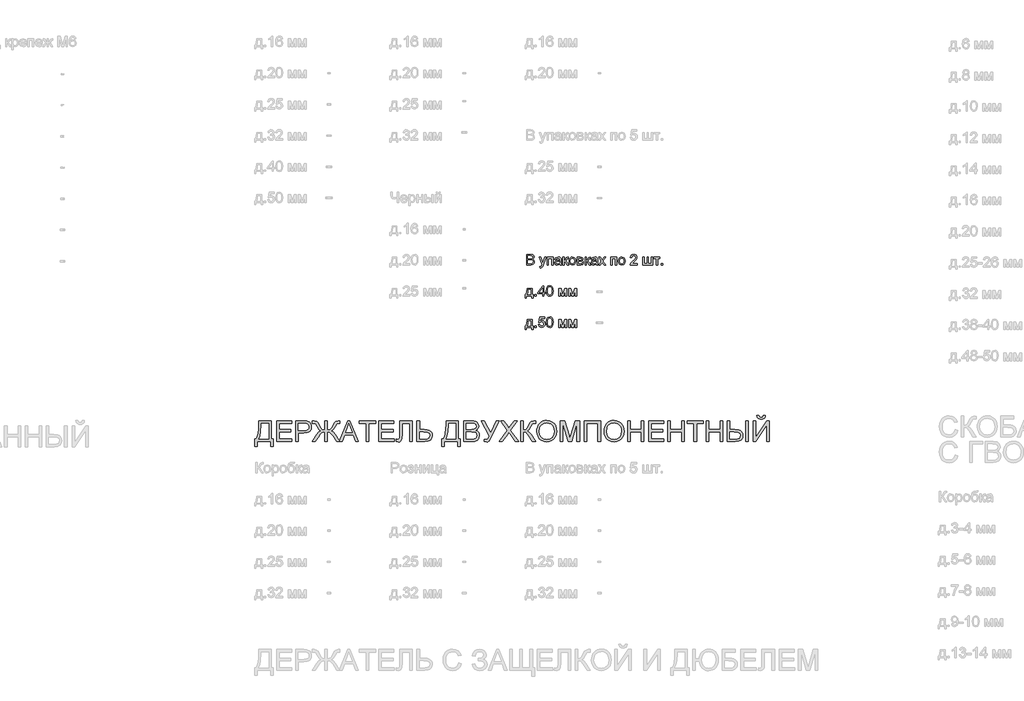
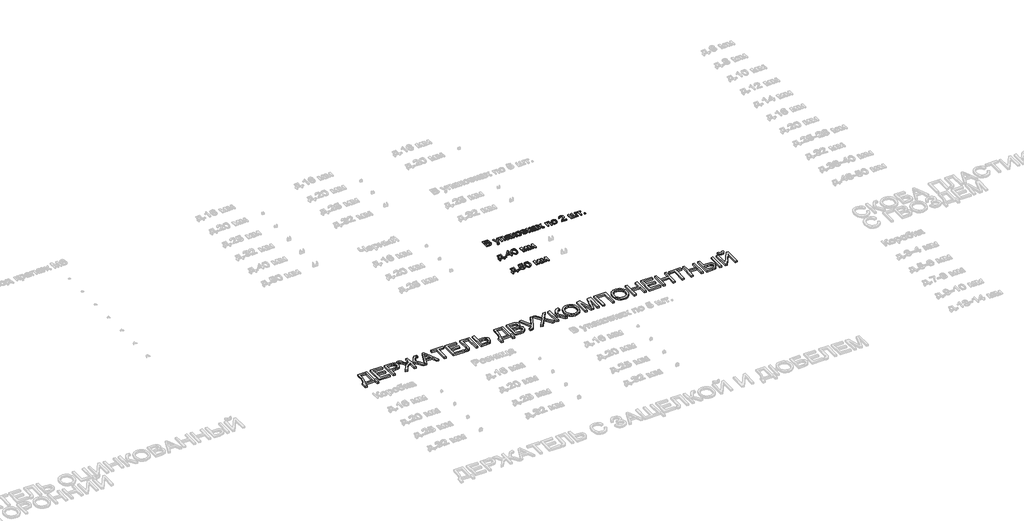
# One storey, part 46 of 98: 4 proxies.
"""IFC4 building model written with IfcOpenShell, lengths in millimetres."""

import ifcopenshell
import ifcopenshell.guid

model = None  # the IFC model being written
_history = None  # IfcOwnerHistory: only IFC2X3 demands one
_inside = {}  # id of a spatial element -> (the spatial element, [elements in it])
_under = {}  # id of a project, library or spatial element -> (it, [spatial elements below it])
_declared = {}  # id of a project -> (the project, [libraries it declares])
_typed = {}  # id of a type object -> (the type object, [elements of that type])
_made_of = {}  # id of a material, layer set ... -> (it, [elements and type objects made of it])


def new_model(schema):
    """Start an empty IFC model of exactly this schema.

    Asked for "IFC4X3", IfcOpenShell would pick the latest addendum, in which some entities
    have other attributes; the version numbers below select the first issue.
    IFC2X3 requires an IfcOwnerHistory on every rooted entity: one is made here for all.
    """
    global model, _history
    if schema == "IFC4X3":
        model = ifcopenshell.file(schema_version=(4, 3, 0, 0))
    else:
        model = ifcopenshell.file(schema=schema)
    _inside.clear()
    _under.clear()
    _declared.clear()
    _typed.clear()
    _made_of.clear()
    _history = None
    if model.schema == "IFC2X3":
        org = make("IfcOrganization", Name="unknown")
        user = make(
            "IfcPersonAndOrganization",
            ThePerson=make("IfcPerson", FamilyName="unknown"),
            TheOrganization=org,
        )
        app = make(
            "IfcApplication",
            ApplicationDeveloper=org,
            Version="unknown",
            ApplicationFullName="unknown",
            ApplicationIdentifier="unknown",
        )
        _history = make(
            "IfcOwnerHistory",
            OwningUser=user,
            OwningApplication=app,
            ChangeAction="ADDED",
            CreationDate=0,
        )
    return model


def make(cls, **values):
    """One entity of the class cls with the attributes given. An attribute that is None is left unset."""
    return model.create_entity(
        cls, **{name: value for name, value in values.items() if value is not None}
    )


def rooted(cls, **values):
    """An entity with a GlobalId (a new one), such as an element, a storey or a relation."""
    return make(cls, GlobalId=ifcopenshell.guid.new(), OwnerHistory=_history, **values)


def si_unit(unit_type, name, prefix=None):
    """IfcSIUnit, for example si_unit("LENGTHUNIT", "METRE", prefix="MILLI")."""
    return make("IfcSIUnit", UnitType=unit_type, Prefix=prefix, Name=name)


def assignment(units):
    """IfcUnitAssignment: the units of a project."""
    return None if units is None else make("IfcUnitAssignment", Units=units)


def point(xyz):
    """IfcCartesianPoint."""
    return None if xyz is None else make("IfcCartesianPoint", Coordinates=xyz)


def direction(xyz):
    """IfcDirection."""
    return None if xyz is None else make("IfcDirection", DirectionRatios=xyz)


def frame(location, z_axis=None, x_axis=None):
    """IfcAxis2Placement3D, a coordinate frame: its origin and axes. An axis left out is left unset."""
    return make(
        "IfcAxis2Placement3D",
        Location=point(location),
        Axis=direction(z_axis),
        RefDirection=direction(x_axis),
    )


def origin():
    """The frame at (0, 0, 0) with its axes left unset."""
    return frame((0.0, 0.0, 0.0))


def origin_with_axes():
    """The frame at (0, 0, 0) with the z axis (0, 0, 1) and the x axis (1, 0, 0) written out."""
    return frame((0.0, 0.0, 0.0), z_axis=(0.0, 0.0, 1.0), x_axis=(1.0, 0.0, 0.0))


def place(relative_to, where):
    """IfcLocalPlacement: puts the frame where relative to a parent placement (None: the world)."""
    return make(
        "IfcLocalPlacement", PlacementRelTo=relative_to, RelativePlacement=where
    )


def context(
    kind, dimensions, precision=None, world=None, true_north=None, identifier=None
):
    """IfcGeometricRepresentationContext, for example the 3D "Model" context."""
    return make(
        "IfcGeometricRepresentationContext",
        ContextIdentifier=identifier,
        ContextType=kind,
        CoordinateSpaceDimension=dimensions,
        Precision=precision,
        WorldCoordinateSystem=world,
        TrueNorth=true_north,
    )


def project(units=None, contexts=None):
    """IfcProject with its units and contexts."""
    return rooted(
        "IfcProject",
        Name="project",
        RepresentationContexts=contexts,
        UnitsInContext=assignment(units),
    )


def spatial(cls, under=None, at=None, **own):
    """A site, building, storey or space (cls), placed at a placement, below another one or the project."""
    s = rooted(cls, ObjectPlacement=at, **own)
    if under is not None:
        _under.setdefault(under.id(), (under, []))[1].append(s)
    return s


def polyline(points):
    """IfcPolyline through the points."""
    return make("IfcPolyline", Points=[point(p) for p in points])


def outline(outer, holes=None, kind="AREA"):
    """IfcArbitraryClosedProfileDef: a profile drawn as a closed curve; with holes, ...WithVoids."""
    if holes is None:
        return make("IfcArbitraryClosedProfileDef", ProfileType=kind, OuterCurve=outer)
    return make(
        "IfcArbitraryProfileDefWithVoids",
        ProfileType=kind,
        OuterCurve=outer,
        InnerCurves=holes,
    )


def extrude(swept, where, along, depth):
    """IfcExtrudedAreaSolid: the profile swept, set in the frame where, extruded along a direction by depth."""
    return make(
        "IfcExtrudedAreaSolid",
        SweptArea=swept,
        Position=where,
        ExtrudedDirection=direction(along),
        Depth=depth,
    )


def shape(context_of_items, identifier, shape_type, items):
    """IfcShapeRepresentation: the items that make up one representation, for example the "Body"."""
    return make(
        "IfcShapeRepresentation",
        ContextOfItems=context_of_items,
        RepresentationIdentifier=identifier,
        RepresentationType=shape_type,
        Items=items,
    )


def made_of(thing, what):
    """Note that an element or type object is made of a material, layer set ...; save() writes the relation."""
    if what is not None:
        _made_of.setdefault(what.id(), (what, []))[1].append(thing)
    return thing


def element(
    cls,
    number,
    at=None,
    inside=None,
    cuts=None,
    type_object=None,
    material=None,
    context=None,
    identifier="Body",
    shape_type=None,
    held_by="IfcProductDefinitionShape",
    body=None,
    shapes=None,
    **own,
):
    """One element of the class cls, such as IfcWall. Its Tag is "e" and its number.

    at: its placement. inside: the storey or other place that contains it. cuts: it is an
    opening in that element (IfcRelVoidsElement). A single representation is given by context,
    identifier, shape_type and body (its items); several are given by shapes. held_by: the class
    of the entity that holds the representations. save() writes the other relations.
    """
    e = rooted(cls, Tag="e%d" % number, ObjectPlacement=at, **own)
    if body is not None:
        shapes = [shape(context, identifier, shape_type, body)]
    if shapes is not None:
        e.Representation = make(held_by, Representations=shapes)
    if inside is not None:
        _inside.setdefault(inside.id(), (inside, []))[1].append(e)
    if cuts is not None:
        rooted(
            "IfcRelVoidsElement", RelatingBuildingElement=cuts, RelatedOpeningElement=e
        )
    if type_object is not None:
        _typed.setdefault(type_object.id(), (type_object, []))[1].append(e)
    return made_of(e, material)


def aggregate(whole, parts):
    """IfcRelAggregates: a whole, such as a stair, and the parts it consists of."""
    return rooted("IfcRelAggregates", RelatingObject=whole, RelatedObjects=parts)


def save(model, path):
    """Write the relations noted so far, then the file.

    IfcRelAggregates (storeys below a building ...), IfcRelContainedInSpatialStructure (elements
    in a storey), IfcRelDefinesByType, IfcRelAssociatesMaterial and IfcRelDeclares: one each for
    every whole, place, type object, material and project.
    """
    for whole, parts in _under.values():
        aggregate(whole, parts)
    for where, things in _inside.values():
        rooted(
            "IfcRelContainedInSpatialStructure",
            RelatedElements=things,
            RelatingStructure=where,
        )
    for kind, things in _typed.values():
        rooted("IfcRelDefinesByType", RelatedObjects=things, RelatingType=kind)
    for what, things in _made_of.values():
        rooted("IfcRelAssociatesMaterial", RelatedObjects=things, RelatingMaterial=what)
    for by, libraries in _declared.values():
        rooted("IfcRelDeclares", RelatingContext=by, RelatedDefinitions=libraries)
    model.write(path)


model = new_model("IFC4")

# Units and contexts
model_context = context("Model", 3, world=origin())
ifc_project = project(units=[si_unit("LENGTHUNIT", "METRE", prefix="MILLI")], contexts=[model_context])

# Site, building, storey
site = spatial("IfcSite", under=ifc_project)
building = spatial("IfcBuilding", under=site)
storey = spatial("IfcBuildingStorey", under=building, Name="Этаж 01", Elevation=0.0)

# Proxies
placement = place(None, origin())
element("IfcBuildingElementProxy", 1, Name="100", ObjectType="100", at=placement, inside=storey, context=model_context, shape_type="SweptSolid", body=[
    extrude(outline(polyline([(8368.1714909, -34359.5121665), (8368.1714909, -34259.0558563), (8406.5047948, -34259.0558563), (8425.2790392, -34262.011175), (8436.36455, -34271.0978603), (8440.3744638, -34283.9492046), (8437.0022122, -34295.6846403), (8426.8118809, -34304.5751218), (8439.1849787, -34313.94385), (8443.5137235, -34329.5665721), (8440.5584048, -34343.0678413), (8433.2375531, -34352.6818241), (8422.3114578, -34357.7831211), (8406.2104892, -34359.5121665), (8368.1714909, -34359.5121665)]), holes=[polyline([(8380.7285296, -34299.8662323), (8403.6598407, -34299.8662323), (8417.0507453, -34298.7871118), (8425.107361, -34294.1395359), (8427.817425, -34285.9602929), (8425.291302, -34277.7687871), (8418.0562894, -34272.9250075), (8401.9185325, -34271.6128951), (8380.7285296, -34271.6128951), (8380.7285296, -34299.8662323)]), polyline([(8380.7285296, -34346.9551277), (8406.4802693, -34346.9551277), (8415.7999465, -34346.4646184), (8423.6848839, -34343.7300289), (8428.9088083, -34338.1504853), (8430.9566847, -34329.6891994), (8428.553189, -34319.9280638), (8420.7663534, -34314.1032655), (8405.253996, -34312.4232711), (8380.7285296, -34312.4232711), (8380.7285296, -34346.9551277)])]), origin_with_axes(), (0.0, 0.0, 1.0), 10.0),
    extrude(outline(polyline([(8498.4507681, -34387.7655037), (8496.8811382, -34375.6744488), (8503.2577595, -34376.7780948), (8509.2174478, -34375.3924059), (8512.8717423, -34371.529645), (8516.3053076, -34362.2835442), (8517.2863262, -34359.2423863), (8490.6026189, -34285.7395637), (8503.8463707, -34285.7395637), (8517.9975648, -34326.6970925), (8522.9271835, -34343.080104), (8527.8568022, -34328.6100789), (8542.4004038, -34285.7395637), (8555.5460537, -34285.7395637), (8529.8678905, -34361.278), (8523.1969636, -34377.6610116), (8515.9129001, -34386.5147049), (8506.127239, -34389.3351335), (8498.4507681, -34387.7655037)])), origin_with_axes(), (0.0, 0.0, 1.0), 10.0),
    extrude(outline(polyline([(8565.9448515, -34285.7395637), (8622.4515259, -34285.7395637), (8622.4515259, -34359.5121665), (8609.8944872, -34359.5121665), (8609.8944872, -34298.2966025), (8578.5018902, -34298.2966025), (8578.5018902, -34359.5121665), (8565.9448515, -34359.5121665), (8565.9448515, -34285.7395637)])), origin_with_axes(), (0.0, 0.0, 1.0), 10.0),
    extrude(outline(polyline([(8688.3759795, -34350.0943874), (8676.1990854, -34358.6047242), (8662.7468671, -34361.0817963), (8652.2530332, -34359.5918742), (8644.5121829, -34355.122108), (8639.738914, -34348.3346852), (8638.1478244, -34339.8917934), (8640.5513201, -34329.9589795), (8646.8666277, -34322.7484924), (8655.6590074, -34318.6282141), (8666.5237889, -34316.7397532), (8688.3024031, -34312.4232711), (8688.3759795, -34309.6273679), (8684.9178887, -34300.3567416), (8671.0364748, -34296.7269726), (8658.3322832, -34299.1427311), (8652.274493, -34307.7143815), (8639.7174542, -34306.1447517), (8645.149845, -34293.8820185), (8656.088203, -34286.6960569), (8672.6551555, -34284.1699338), (8687.8732074, -34286.4017513), (8696.4693834, -34292.0058203), (8700.3198816, -34300.5284199), (8700.9330182, -34311.5158288), (8700.9330182, -34327.1385509), (8701.5706804, -34348.9539532), (8704.0722779, -34359.5121665), (8691.5152392, -34359.5121665), (8688.3759795, -34350.0943874)]), holes=[polyline([(8688.3759795, -34324.9803098), (8668.1179443, -34328.8308081), (8657.3144763, -34330.8664218), (8652.4216458, -34334.1773597), (8650.7048632, -34339.0088766), (8654.4449968, -34345.8024308), (8665.420143, -34348.5247575), (8678.1243345, -34345.5203879), (8686.3158403, -34338.2485871), (8688.3024031, -34328.5365025), (8688.3759795, -34324.9803098)])]), origin_with_axes(), (0.0, 0.0, 1.0), 10.0),
    extrude(outline(polyline([(8718.1989465, -34285.7395637), (8730.7559853, -34285.7395637), (8730.7559853, -34317.1321606), (8739.1682203, -34314.8758177), (8746.0598763, -34301.7301677), (8751.7865727, -34290.3871396), (8756.8388188, -34286.6960569), (8766.0236059, -34285.7395637), (8768.4271016, -34285.7395637), (8768.4271016, -34298.3701789), (8765.0425873, -34298.2966025), (8758.9112207, -34299.6209776), (8754.5947386, -34307.8860598), (8749.5302298, -34316.8255923), (8742.4301073, -34321.203388), (8750.3518329, -34326.0900872), (8758.1264057, -34336.3846517), (8771.5663613, -34359.5121665), (8757.2925399, -34359.5121665), (8744.1223645, -34336.875161), (8737.5004885, -34327.2979664), (8730.7559853, -34324.9803098), (8730.7559853, -34359.5121665), (8718.1989465, -34359.5121665), (8718.1989465, -34285.7395637)])), origin_with_axes(), (0.0, 0.0, 1.0), 10.0),
    extrude(outline(polyline([(8776.2752508, -34322.6258651), (8778.9914462, -34304.8387706), (8787.1400324, -34292.3369141), (8797.2077364, -34286.2116789), (8809.2620031, -34284.1699338), (8822.4536383, -34286.656203), (8832.9903918, -34294.1150104), (8839.8973762, -34305.957745), (8842.1997044, -34321.5957955), (8838.128477, -34343.9384953), (8826.270414, -34356.5813732), (8809.2620031, -34361.0817963), (8795.9109523, -34358.6047242), (8785.3864616, -34351.1735079), (8778.5530535, -34339.082453), (8776.2752508, -34322.6258651)]), holes=[polyline([(8788.8322896, -34322.6013396), (8790.2854235, -34333.9658276), (8794.6448251, -34342.0622972), (8801.2053874, -34346.9091424), (8809.2620031, -34348.5247575), (8817.2818306, -34346.8999454), (8823.8301301, -34342.025509), (8828.1895317, -34333.8217405), (8829.6426656, -34322.2089321), (8828.1803347, -34311.175538), (8823.7933419, -34303.189433), (8817.2358453, -34298.3425877), (8809.2620031, -34296.7269726), (8801.2053874, -34298.3364563), (8794.6448251, -34303.1649075), (8790.2854235, -34311.242983), (8788.8322896, -34322.6013396)])]), origin_with_axes(), (0.0, 0.0, 1.0), 10.0),
    extrude(outline(polyline([(8856.326373, -34285.7395637), (8883.991099, -34285.7395637), (8899.1601, -34287.4195581), (8907.6949623, -34293.5754502), (8911.2634176, -34304.3053417), (8909.1051766, -34313.024145), (8902.605928, -34319.2413507), (8911.0426884, -34326.0471676), (8914.4026773, -34337.8807051), (8912.2750931, -34347.4517684), (8907.2167157, -34354.1901403), (8899.2091509, -34358.1816599), (8888.2340047, -34359.5121665), (8856.326373, -34359.5121665), (8856.326373, -34285.7395637)]), holes=[polyline([(8868.8834118, -34313.9929009), (8881.2932977, -34313.9929009), (8891.5326799, -34313.3552388), (8896.5113496, -34310.8045903), (8898.7063788, -34306.1938026), (8894.8558806, -34300.0379106), (8881.6857052, -34298.2966025), (8868.8834118, -34298.2966025), (8868.8834118, -34313.9929009)]), polyline([(8868.8834118, -34346.9551277), (8884.2854046, -34346.9551277), (8897.9460894, -34344.6865221), (8901.8456385, -34336.8506356), (8899.6996602, -34330.8051081), (8894.1078539, -34327.2857037), (8883.0591313, -34326.5499397), (8868.8834118, -34326.5499397), (8868.8834118, -34346.9551277)])]), origin_with_axes(), (0.0, 0.0, 1.0), 10.0),
    extrude(outline(polyline([(8930.0989758, -34285.7395637), (8942.6560145, -34285.7395637), (8942.6560145, -34317.1321606), (8951.0682495, -34314.8758177), (8957.9599055, -34301.7301677), (8963.6866019, -34290.3871396), (8968.738848, -34286.6960569), (8977.9236351, -34285.7395637), (8980.3271308, -34285.7395637), (8980.3271308, -34298.3701789), (8976.9426165, -34298.2966025), (8970.8112499, -34299.6209776), (8966.4947678, -34307.8860598), (8961.430259, -34316.8255923), (8954.3301365, -34321.203388), (8962.2518621, -34326.0900872), (8970.026435, -34336.3846517), (8983.4663905, -34359.5121665), (8969.1925691, -34359.5121665), (8956.0223937, -34336.875161), (8949.4005178, -34327.2979664), (8942.6560145, -34324.9803098), (8942.6560145, -34359.5121665), (8930.0989758, -34359.5121665), (8930.0989758, -34285.7395637)])), origin_with_axes(), (0.0, 0.0, 1.0), 10.0),
    extrude(outline(polyline([(9038.4034351, -34350.0943874), (9026.2265411, -34358.6047242), (9012.7743228, -34361.0817963), (9002.2804889, -34359.5918742), (8994.5396386, -34355.122108), (8989.7663697, -34348.3346852), (8988.1752801, -34339.8917934), (8990.5787758, -34329.9589795), (8996.8940833, -34322.7484924), (9005.686463, -34318.6282141), (9016.5512446, -34316.7397532), (9038.3298587, -34312.4232711), (9038.4034351, -34309.6273679), (9034.9453444, -34300.3567416), (9021.0639304, -34296.7269726), (9008.3597389, -34299.1427311), (9002.3019487, -34307.7143815), (8989.7449099, -34306.1447517), (8995.1773007, -34293.8820185), (9006.1156587, -34286.6960569), (9022.6826112, -34284.1699338), (9037.9006631, -34286.4017513), (9046.496839, -34292.0058203), (9050.3473372, -34300.5284199), (9050.9604739, -34311.5158288), (9050.9604739, -34327.1385509), (9051.598136, -34348.9539532), (9054.0997336, -34359.5121665), (9041.5426948, -34359.5121665), (9038.4034351, -34350.0943874)]), holes=[polyline([(9038.4034351, -34324.9803098), (9018.1453999, -34328.8308081), (9007.341932, -34330.8664218), (9002.4491015, -34334.1773597), (9000.7323188, -34339.0088766), (9004.4724524, -34345.8024308), (9015.4475986, -34348.5247575), (9028.1517902, -34345.5203879), (9036.343296, -34338.2485871), (9038.3298587, -34328.5365025), (9038.4034351, -34324.9803098)])]), origin_with_axes(), (0.0, 0.0, 1.0), 10.0),
    extrude(outline(polyline([(9060.378253, -34359.5121665), (9087.2091132, -34322.4296613), (9061.9478828, -34285.7395637), (9077.0555701, -34285.7395637), (9089.2447269, -34303.3978995), (9094.9346351, -34311.736558), (9099.8642538, -34304.9184784), (9113.7456677, -34285.7395637), (9128.853355, -34285.7395637), (9102.3168004, -34322.4296613), (9127.8723364, -34359.5121665), (9112.7646491, -34359.5121665), (9097.3871817, -34337.2185176), (9094.5667531, -34333.1472901), (9075.4859403, -34359.5121665), (9060.378253, -34359.5121665)])), origin_with_axes(), (0.0, 0.0, 1.0), 10.0),
    extrude(outline(polyline([(9178.1004914, -34285.7395637), (9234.6071659, -34285.7395637), (9234.6071659, -34359.5121665), (9222.0501271, -34359.5121665), (9222.0501271, -34298.2966025), (9190.6575302, -34298.2966025), (9190.6575302, -34359.5121665), (9178.1004914, -34359.5121665), (9178.1004914, -34285.7395637)])), origin_with_axes(), (0.0, 0.0, 1.0), 10.0),
    extrude(outline(polyline([(9250.3034644, -34322.6258651), (9253.0196598, -34304.8387706), (9261.168246, -34292.3369141), (9271.2359499, -34286.2116789), (9283.2902166, -34284.1699338), (9296.4818518, -34286.656203), (9307.0186053, -34294.1150104), (9313.9255897, -34305.957745), (9316.2279179, -34321.5957955), (9312.1566905, -34343.9384953), (9300.2986275, -34356.5813732), (9283.2902166, -34361.0817963), (9269.9391659, -34358.6047242), (9259.4146751, -34351.1735079), (9252.581267, -34339.082453), (9250.3034644, -34322.6258651)]), holes=[polyline([(9262.8605031, -34322.6013396), (9264.313637, -34333.9658276), (9268.6730387, -34342.0622972), (9275.2336009, -34346.9091424), (9283.2902166, -34348.5247575), (9291.3100441, -34346.8999454), (9297.8583436, -34342.025509), (9302.2177452, -34333.8217405), (9303.6708791, -34322.2089321), (9302.2085482, -34311.175538), (9297.8215554, -34303.189433), (9291.2640588, -34298.3425877), (9283.2902166, -34296.7269726), (9275.2336009, -34298.3364563), (9268.6730387, -34303.1649075), (9264.313637, -34311.242983), (9262.8605031, -34322.6013396)])]), origin_with_axes(), (0.0, 0.0, 1.0), 10.0),
    extrude(outline(polyline([(9430.8108967, -34346.9551277), (9430.8108967, -34359.5121665), (9364.8864431, -34359.5121665), (9366.2353438, -34350.8546768), (9373.8627638, -34337.5250859), (9389.5835877, -34322.9692216), (9411.2641, -34302.0489988), (9416.684228, -34287.8242283), (9411.5706683, -34276.3095219), (9398.2165519, -34271.6128951), (9384.2983497, -34276.1991573), (9379.0131117, -34288.8788234), (9366.456073, -34287.3091935), (9369.5002965, -34275.1629563), (9376.0823185, -34266.2908689), (9385.8587825, -34260.8646095), (9398.486332, -34259.0558563), (9411.205852, -34261.0669445), (9420.9639219, -34267.1002093), (9427.1719306, -34276.1133182), (9429.2412668, -34287.0639389), (9427.0094494, -34298.9710528), (9419.5904958, -34311.2828369), (9401.6010662, -34328.4874515), (9387.1555666, -34340.5662437), (9381.4901838, -34346.9551277), (9430.8108967, -34346.9551277)])), origin_with_axes(), (0.0, 0.0, 1.0), 10.0),
    extrude(outline(polyline([(9485.7479413, -34285.7395637), (9498.30498, -34285.7395637), (9498.30498, -34346.9551277), (9526.5583173, -34346.9551277), (9526.5583173, -34285.7395637), (9539.115356, -34285.7395637), (9539.115356, -34346.9551277), (9567.3686933, -34346.9551277), (9567.3686933, -34285.7395637), (9579.925732, -34285.7395637), (9579.925732, -34359.5121665), (9485.7479413, -34359.5121665), (9485.7479413, -34285.7395637)])), origin_with_axes(), (0.0, 0.0, 1.0), 10.0),
    extrude(outline(polyline([(9590.913141, -34285.7395637), (9650.5590751, -34285.7395637), (9650.5590751, -34298.2966025), (9627.0146274, -34298.2966025), (9627.0146274, -34359.5121665), (9614.4575887, -34359.5121665), (9614.4575887, -34298.2966025), (9590.913141, -34298.2966025), (9590.913141, -34285.7395637)])), origin_with_axes(), (0.0, 0.0, 1.0), 10.0),
    extrude(outline(polyline([(9664.6857437, -34359.5121665), (9664.6857437, -34346.9551277), (9677.2427825, -34346.9551277), (9677.2427825, -34359.5121665), (9664.6857437, -34359.5121665)])), origin_with_axes(), (0.0, 0.0, 1.0), 10.0),
])
element("IfcBuildingElementProxy", 2, Name="100", ObjectType="100", at=placement, inside=storey, context=model_context, shape_type="SweptSolid", body=[
    extrude(outline(polyline([(8374.7606918, -34585.7395637), (8421.8495872, -34585.7395637), (8421.8495872, -34646.9551277), (8431.2673663, -34646.9551277), (8431.2673663, -34679.9173545), (8418.7103275, -34679.9173545), (8418.7103275, -34659.5121665), (8366.9125426, -34659.5121665), (8366.9125426, -34679.9173545), (8354.3555038, -34679.9173545), (8354.3555038, -34646.9551277), (8362.2036531, -34646.9551277), (8371.903475, -34623.0060098), (8374.7606918, -34585.7395637)]), holes=[polyline([(8385.7481007, -34598.2966025), (8382.8050448, -34626.905559), (8376.3303217, -34646.9551277), (8409.2925484, -34646.9551277), (8409.2925484, -34598.2966025), (8385.7481007, -34598.2966025)])]), origin_with_axes(), (0.0, 0.0, 1.0), 10.0),
    extrude(outline(polyline([(8448.5332946, -34659.5121665), (8448.5332946, -34646.9551277), (8461.0903334, -34646.9551277), (8461.0903334, -34659.5121665), (8448.5332946, -34659.5121665)])), origin_with_axes(), (0.0, 0.0, 1.0), 10.0),
    extrude(outline(polyline([(8522.3058974, -34659.5121665), (8522.3058974, -34635.9677188), (8476.7866318, -34635.9677188), (8476.7866318, -34623.41068), (8525.445157, -34560.6254862), (8534.8629361, -34560.6254862), (8534.8629361, -34623.41068), (8547.4199749, -34623.41068), (8547.4199749, -34635.9677188), (8534.8629361, -34635.9677188), (8534.8629361, -34659.5121665), (8522.3058974, -34659.5121665)]), holes=[polyline([(8522.3058974, -34623.41068), (8522.3058974, -34584.6113922), (8492.2376756, -34623.41068), (8522.3058974, -34623.41068)])]), origin_with_axes(), (0.0, 0.0, 1.0), 10.0),
    extrude(outline(polyline([(8558.4073838, -34610.0933518), (8562.0984665, -34581.1900897), (8573.06135, -34564.5250353), (8591.3696106, -34559.0558563), (8606.0358395, -34562.2932179), (8616.1648571, -34571.6251578), (8622.050969, -34586.4875904), (8624.3318374, -34610.0933518), (8620.6775429, -34638.8739865), (8609.7514476, -34655.5758291), (8601.520088, -34659.7053045), (8591.3696106, -34661.0817963), (8578.3220625, -34658.6905633), (8568.4137741, -34651.5168644), (8560.9089814, -34634.5268476), (8558.4073838, -34610.0933518)]), holes=[polyline([(8570.9644226, -34610.0688263), (8572.4359506, -34629.8210238), (8576.8505345, -34641.2529568), (8583.4233595, -34646.7068073), (8591.3696106, -34648.5247575), (8599.3158617, -34646.700676), (8605.8886867, -34641.2284313), (8610.3032706, -34629.7903669), (8611.7747986, -34610.0688263), (8610.3523215, -34590.7611529), (8606.0848904, -34579.2403151), (8599.5243281, -34573.5197501), (8591.2224578, -34571.6128951), (8583.3620458, -34573.2928895), (8577.0467382, -34578.3328729), (8572.4850015, -34590.5710806), (8570.9644226, -34610.0688263)])]), origin_with_axes(), (0.0, 0.0, 1.0), 10.0),
    extrude(outline(polyline([(8677.6992521, -34585.7395637), (8699.306188, -34585.7395637), (8715.9589796, -34644.7968867), (8733.911621, -34585.7395637), (8754.6111146, -34585.7395637), (8754.6111146, -34659.5121665), (8742.0540758, -34659.5121665), (8742.0540758, -34600.111487), (8724.0033326, -34659.5121665), (8707.5222192, -34659.5121665), (8690.2562909, -34597.2665329), (8690.2562909, -34659.5121665), (8677.6992521, -34659.5121665), (8677.6992521, -34585.7395637)])), origin_with_axes(), (0.0, 0.0, 1.0), 10.0),
    extrude(outline(polyline([(8773.4466727, -34585.7395637), (8795.0536086, -34585.7395637), (8811.7064002, -34644.7968867), (8829.6590416, -34585.7395637), (8850.3585352, -34585.7395637), (8850.3585352, -34659.5121665), (8837.8014964, -34659.5121665), (8837.8014964, -34600.111487), (8819.7507532, -34659.5121665), (8803.2696398, -34659.5121665), (8786.0037115, -34597.2665329), (8786.0037115, -34659.5121665), (8773.4466727, -34659.5121665), (8773.4466727, -34585.7395637)])), origin_with_axes(), (0.0, 0.0, 1.0), 10.0),
])
element("IfcBuildingElementProxy", 3, Name="100", ObjectType="100", at=placement, inside=storey, context=model_context, shape_type="SweptSolid", body=[
    extrude(outline(polyline([(8374.7606918, -34885.7395637), (8421.8495872, -34885.7395637), (8421.8495872, -34946.9551277), (8431.2673663, -34946.9551277), (8431.2673663, -34979.9173545), (8418.7103275, -34979.9173545), (8418.7103275, -34959.5121665), (8366.9125426, -34959.5121665), (8366.9125426, -34979.9173545), (8354.3555038, -34979.9173545), (8354.3555038, -34946.9551277), (8362.2036531, -34946.9551277), (8371.903475, -34923.0060098), (8374.7606918, -34885.7395637)]), holes=[polyline([(8385.7481007, -34898.2966025), (8382.8050448, -34926.905559), (8376.3303217, -34946.9551277), (8409.2925484, -34946.9551277), (8409.2925484, -34898.2966025), (8385.7481007, -34898.2966025)])]), origin_with_axes(), (0.0, 0.0, 1.0), 10.0),
    extrude(outline(polyline([(8448.5332946, -34959.5121665), (8448.5332946, -34946.9551277), (8461.0903334, -34946.9551277), (8461.0903334, -34959.5121665), (8448.5332946, -34959.5121665)])), origin_with_axes(), (0.0, 0.0, 1.0), 10.0),
    extrude(outline(polyline([(8481.4955214, -34932.8284591), (8494.0525601, -34931.2588292), (8500.3801304, -34944.1960127), (8513.5012549, -34948.5247575), (8522.5021011, -34947.019507), (8529.2466043, -34942.5037555), (8533.4588532, -34935.4986692), (8534.8629361, -34926.5254142), (8529.6022236, -34911.6139307), (8522.9956761, -34907.5120464), (8513.6974587, -34906.1447517), (8502.6732615, -34908.3275182), (8495.62219, -34913.9929009), (8483.0651512, -34912.4232711), (8494.0525601, -34860.6254862), (8542.7110854, -34860.6254862), (8542.7110854, -34873.1825249), (8504.2061032, -34873.1825249), (8498.8350261, -34900.847251), (8507.8052154, -34895.4025974), (8517.2046004, -34893.5877129), (8528.9369703, -34895.8379245), (8538.6766461, -34902.5885591), (8545.2341427, -34912.8769922), (8547.4199749, -34925.7405993), (8545.4518062, -34938.2976381), (8539.5473002, -34949.0397923), (8528.2410602, -34958.0712953), (8513.452204, -34961.0817963), (8501.1189601, -34959.1473501), (8491.2934452, -34953.3440117), (8484.558139, -34944.3462312), (8481.4955214, -34932.8284591)])), origin_with_axes(), (0.0, 0.0, 1.0), 10.0),
    extrude(outline(polyline([(8558.4073838, -34910.0933518), (8562.0984665, -34881.1900897), (8573.06135, -34864.5250353), (8591.3696106, -34859.0558563), (8606.0358395, -34862.2932179), (8616.1648571, -34871.6251578), (8622.050969, -34886.4875904), (8624.3318374, -34910.0933518), (8620.6775429, -34938.8739865), (8609.7514476, -34955.5758291), (8601.520088, -34959.7053045), (8591.3696106, -34961.0817963), (8578.3220625, -34958.6905633), (8568.4137741, -34951.5168644), (8560.9089814, -34934.5268476), (8558.4073838, -34910.0933518)]), holes=[polyline([(8570.9644226, -34910.0688263), (8572.4359506, -34929.8210238), (8576.8505345, -34941.2529568), (8583.4233595, -34946.7068073), (8591.3696106, -34948.5247575), (8599.3158617, -34946.700676), (8605.8886867, -34941.2284313), (8610.3032706, -34929.7903669), (8611.7747986, -34910.0688263), (8610.3523215, -34890.7611529), (8606.0848904, -34879.2403151), (8599.5243281, -34873.5197501), (8591.2224578, -34871.6128951), (8583.3620458, -34873.2928895), (8577.0467382, -34878.3328729), (8572.4850015, -34890.5710806), (8570.9644226, -34910.0688263)])]), origin_with_axes(), (0.0, 0.0, 1.0), 10.0),
    extrude(outline(polyline([(8677.6992521, -34885.7395637), (8699.306188, -34885.7395637), (8715.9589796, -34944.7968867), (8733.911621, -34885.7395637), (8754.6111146, -34885.7395637), (8754.6111146, -34959.5121665), (8742.0540758, -34959.5121665), (8742.0540758, -34900.111487), (8724.0033326, -34959.5121665), (8707.5222192, -34959.5121665), (8690.2562909, -34897.2665329), (8690.2562909, -34959.5121665), (8677.6992521, -34959.5121665), (8677.6992521, -34885.7395637)])), origin_with_axes(), (0.0, 0.0, 1.0), 10.0),
    extrude(outline(polyline([(8773.4466727, -34885.7395637), (8795.0536086, -34885.7395637), (8811.7064002, -34944.7968867), (8829.6590416, -34885.7395637), (8850.3585352, -34885.7395637), (8850.3585352, -34959.5121665), (8837.8014964, -34959.5121665), (8837.8014964, -34900.111487), (8819.7507532, -34959.5121665), (8803.2696398, -34959.5121665), (8786.0037115, -34897.2665329), (8786.0037115, -34959.5121665), (8773.4466727, -34959.5121665), (8773.4466727, -34885.7395637)])), origin_with_axes(), (0.0, 0.0, 1.0), 10.0),
])
element("IfcBuildingElementProxy", 4, Name="200", ObjectType="200", at=placement, inside=storey, context=model_context, shape_type="SweptSolid", body=[
    extrude(outline(polyline([(5795.1658798, -35858.5995462), (5914.4577481, -35858.5995462), (5914.4577481, -36034.3980889), (5933.2933063, -36034.3980889), (5933.2933063, -36106.6010618), (5908.1792287, -36106.6010618), (5908.1792287, -36059.5121665), (5779.4695814, -36059.5121665), (5779.4695814, -36106.6010618), (5754.3555038, -36106.6010618), (5754.3555038, -36034.3980889), (5770.0518023, -36034.3980889), (5781.0392112, -36011.6169964), (5788.8873604, -35979.5714089), (5793.59625, -35938.2613265), (5795.1658798, -35887.6867492), (5795.1658798, -35858.5995462)]), holes=[polyline([(5889.3436706, -35883.7136237), (5820.2799574, -35883.7136237), (5820.2799574, -35893.8181158), (5815.1786604, -35962.6365744), (5807.6248167, -36002.4046181), (5795.1658798, -36034.3980889), (5889.3436706, -36034.3980889), (5889.3436706, -35883.7136237)])]), origin_with_axes(), (0.0, 0.0, 1.0), 20.0),
    extrude(outline(polyline([(5964.6859032, -36059.5121665), (5964.6859032, -35858.5995462), (6109.091849, -35858.5995462), (6109.091849, -35883.7136237), (5989.7999807, -35883.7136237), (5989.7999807, -35943.3595578), (6102.8133297, -35943.3595578), (6102.8133297, -35968.4736354), (5989.7999807, -35968.4736354), (5989.7999807, -36034.3980889), (6112.2311087, -36034.3980889), (6112.2311087, -36059.5121665), (5964.6859032, -36059.5121665)])), origin_with_axes(), (0.0, 0.0, 1.0), 20.0),
    extrude(outline(polyline([(6149.902225, -36059.5121665), (6149.902225, -35858.5995462), (6224.3615409, -35858.5995462), (6254.3807117, -35860.5125325), (6278.7835507, -35869.9057861), (6287.6556381, -35878.232182), (6294.6024765, -35889.3299555), (6299.0906368, -35902.4204232), (6300.5866903, -35916.7249014), (6296.5461197, -35940.4042392), (6284.4244079, -35960.1349768), (6274.7169218, -35967.9034183), (6261.7567457, -35973.4523051), (6226.0783235, -35977.8914145), (6175.0163026, -35977.8914145), (6175.0163026, -36059.5121665), (6149.902225, -36059.5121665)]), holes=[polyline([(6175.0163026, -35952.7773369), (6227.5498515, -35952.7773369), (6249.8189749, -35950.4719431), (6264.5342547, -35943.5557616), (6272.7380232, -35932.4579881), (6275.4726127, -35917.6078182), (6273.8600633, -35906.3261037), (6269.0224151, -35896.8102227), (6261.5605419, -35889.6487866), (6252.0753178, -35885.4304063), (6226.9612403, -35883.7136237), (6175.0163026, -35883.7136237), (6175.0163026, -35952.7773369)])]), origin_with_axes(), (0.0, 0.0, 1.0), 20.0),
    extrude(outline(polyline([(6454.4104152, -35858.5995462), (6454.4104152, -35946.4988175), (6472.7799895, -35944.8065604), (6484.3314841, -35939.7297888), (6493.3691185, -35927.9820904), (6504.1971119, -35906.2770527), (6518.4218823, -35878.1953938), (6534.33891, -35864.2404034), (6556.9759154, -35858.5995462), (6573.7022835, -35858.8938518), (6573.7022835, -35883.7136237), (6568.208579, -35883.5664709), (6562.5677218, -35883.4193181), (6550.8322861, -35884.9521597), (6542.6039922, -35889.5506847), (6527.398203, -35915.2043225), (6511.3340226, -35943.9236436), (6491.6400731, -35956.6033097), (6511.4934381, -35968.3264826), (6530.7336664, -35992.5085924), (6573.7022835, -36059.5121665), (6544.5169785, -36059.5121665), (6508.0721355, -36002.6621355), (6482.9825835, -35973.7711361), (6470.7505071, -35967.4435658), (6454.4104152, -35965.3343757), (6454.4104152, -36059.5121665), (6429.2963376, -36059.5121665), (6429.2963376, -35965.3343757), (6415.5436824, -35966.9714506), (6403.5200725, -35971.8826752), (6391.4228862, -35982.2017652), (6377.4495018, -36000.062436), (6375.6346173, -36002.6621355), (6339.1897743, -36059.5121665), (6310.0044693, -36059.5121665), (6352.9240354, -35992.5085924), (6372.384993, -35968.2529062), (6392.1157307, -35956.6033097), (6373.4763762, -35945.2480188), (6356.3085498, -35915.2043225), (6340.6613023, -35889.0111244), (6332.5801611, -35885.0379989), (6321.2861839, -35883.7136237), (6310.0044693, -35884.0079293), (6310.0044693, -35858.8938518), (6325.8479206, -35858.5995462), (6349.3923683, -35864.1177761), (6365.0150904, -35877.9501391), (6379.509641, -35906.3261037), (6390.3437657, -35928.2702647), (6399.3016923, -35939.8524162), (6410.8102674, -35944.7145899), (6429.2963376, -35946.4988175), (6429.2963376, -35858.5995462), (6454.4104152, -35858.5995462)])), origin_with_axes(), (0.0, 0.0, 1.0), 20.0),
    extrude(outline(polyline([(6569.1405467, -36059.5121665), (6649.3388217, -35858.5995462), (6670.7250283, -35858.5995462), (6750.9233033, -36059.5121665), (6724.3867487, -36059.5121665), (6701.3818613, -35996.7269726), (6618.6329378, -35996.7269726), (6595.6771013, -36059.5121665), (6569.1405467, -36059.5121665)]), holes=[polyline([(6627.8545132, -35971.6128951), (6692.2093369, -35971.6128951), (6674.1095427, -35922.2186059), (6660.031925, -35883.7136237), (6647.5239372, -35917.9021238), (6627.8545132, -35971.6128951)])]), origin_with_axes(), (0.0, 0.0, 1.0), 20.0),
    extrude(outline(polyline([(6827.9823186, -36059.5121665), (6827.9823186, -35883.7136237), (6762.057865, -35883.7136237), (6762.057865, -35858.5995462), (6919.0208496, -35858.5995462), (6919.0208496, -35883.7136237), (6853.0963961, -35883.7136237), (6853.0963961, -36059.5121665), (6827.9823186, -36059.5121665)])), origin_with_axes(), (0.0, 0.0, 1.0), 20.0),
    extrude(outline(polyline([(6947.2741869, -36059.5121665), (6947.2741869, -35858.5995462), (7091.6801327, -35858.5995462), (7091.6801327, -35883.7136237), (6972.3882644, -35883.7136237), (6972.3882644, -35943.3595578), (7085.4016133, -35943.3595578), (7085.4016133, -35968.4736354), (6972.3882644, -35968.4736354), (6972.3882644, -36034.3980889), (7094.8193924, -36034.3980889), (7094.8193924, -36059.5121665), (6947.2741869, -36059.5121665)])), origin_with_axes(), (0.0, 0.0, 1.0), 20.0),
    extrude(outline(polyline([(7148.1868072, -35858.5995462), (7270.6179351, -35858.5995462), (7270.6179351, -36059.5121665), (7245.5038576, -36059.5121665), (7245.5038576, -35883.7136237), (7173.3008847, -35883.7136237), (7173.3008847, -35986.230073), (7170.3823542, -36031.9700678), (7165.863537, -36044.8949885), (7158.1441465, -36054.5825477), (7147.5736705, -36060.6342065), (7134.5015969, -36062.6514262), (7113.6549505, -36059.5121665), (7116.7942102, -36034.3980889), (7128.8116887, -36037.5373486), (7137.3036315, -36035.8512228), (7143.3552903, -36030.7928454), (7146.9789279, -36019.480474), (7148.1868072, -35999.0323665), (7148.1868072, -35858.5995462)])), origin_with_axes(), (0.0, 0.0, 1.0), 20.0),
    extrude(outline(polyline([(7314.5675708, -35858.5995462), (7339.6816484, -35858.5995462), (7339.6816484, -35943.3595578), (7386.7214928, -35943.3595578), (7415.1035888, -35945.3277265), (7434.4235249, -35951.2322325), (7447.1277164, -35960.5273843), (7455.6625787, -35972.6674901), (7460.500227, -35986.4324081), (7462.1127764, -36000.6019963), (7458.2377527, -36022.6503905), (7446.6126816, -36041.8047798), (7437.1949026, -36049.5517614), (7424.4416601, -36055.0853198), (7388.9287848, -36059.5121665), (7314.5675708, -36059.5121665), (7314.5675708, -35858.5995462)]), holes=[polyline([(7339.6816484, -36034.3980889), (7388.8797339, -36034.3980889), (7413.6259294, -36031.9148855), (7427.9242763, -36024.4652751), (7434.7300932, -36013.508523), (7436.9986988, -36000.5038944), (7435.3554926, -35989.9702066), (7430.4258739, -35981.128776), (7422.7555343, -35974.5498197), (7412.8901654, -35970.8035547), (7375.7340839, -35968.4736354), (7339.6816484, -35968.4736354), (7339.6816484, -36034.3980889)])]), origin_with_axes(), (0.0, 0.0, 1.0), 20.0),
    extrude(outline(polyline([(7593.9616834, -35858.5995462), (7713.2535517, -35858.5995462), (7713.2535517, -36034.3980889), (7732.0891099, -36034.3980889), (7732.0891099, -36106.6010618), (7706.9750324, -36106.6010618), (7706.9750324, -36059.5121665), (7578.265385, -36059.5121665), (7578.265385, -36106.6010618), (7553.1513074, -36106.6010618), (7553.1513074, -36034.3980889), (7568.8476059, -36034.3980889), (7579.8350148, -36011.6169964), (7587.6831641, -35979.5714089), (7592.3920536, -35938.2613265), (7593.9616834, -35887.6867492), (7593.9616834, -35858.5995462)]), holes=[polyline([(7688.1394742, -35883.7136237), (7619.075761, -35883.7136237), (7619.075761, -35893.8181158), (7613.974464, -35962.6365744), (7606.4206203, -36002.4046181), (7593.9616834, -36034.3980889), (7688.1394742, -36034.3980889), (7688.1394742, -35883.7136237)])]), origin_with_axes(), (0.0, 0.0, 1.0), 20.0),
    extrude(outline(polyline([(7763.4817068, -36059.5121665), (7763.4817068, -35858.5995462), (7840.1483146, -35858.5995462), (7861.2340843, -35860.0772055), (7877.6968036, -35864.5101835), (7890.315156, -35872.0088449), (7899.8678252, -35882.6835541), (7905.8826958, -35895.2405929), (7907.8876527, -35908.3862428), (7906.2015268, -35920.4834291), (7901.1431494, -35931.8571141), (7892.6757322, -35941.8083221), (7880.7624869, -35949.6380772), (7894.9933887, -35957.0692935), (7905.5086824, -35968.3755335), (7912.0017996, -35982.8087705), (7914.166172, -35999.6209776), (7908.2555347, -36026.6235161), (7893.6138312, -36045.8514817), (7871.7616407, -36056.0540757), (7839.5597034, -36059.5121665), (7763.4817068, -36059.5121665)]), holes=[polyline([(7788.5957844, -36034.3980889), (7840.0992637, -36034.3980889), (7858.7386181, -36033.4170703), (7874.508493, -36027.9478913), (7884.9563416, -36016.7888041), (7889.0520945, -35999.8662323), (7884.2451031, -35980.3439611), (7877.9481896, -35973.2867582), (7868.671432, -35968.6943646), (7837.646717, -35965.3343757), (7788.5957844, -35965.3343757), (7788.5957844, -36034.3980889)]), polyline([(7788.5957844, -35940.2202982), (7834.4584064, -35940.2202982), (7861.2402157, -35938.0620571), (7877.3534471, -35928.7669054), (7882.7735751, -35912.4084193), (7877.7213291, -35896.0254078), (7863.2513039, -35886.3378486), (7830.9757902, -35883.7136237), (7788.5957844, -35883.7136237), (7788.5957844, -35940.2202982)])]), origin_with_axes(), (0.0, 0.0, 1.0), 20.0),
    extrude(outline(polyline([(7934.57136, -35858.5995462), (7962.3832389, -35858.5995462), (8022.4706314, -35977.5971089), (8076.5247592, -35858.5995462), (8104.0913834, -35858.5995462), (8027.8171831, -36015.1210724), (8007.0686386, -36053.5770036), (7997.2216638, -36060.3828205), (7983.8675474, -36062.6514262), (7961.2550674, -36059.5121665), (7961.2550674, -36037.5373486), (7981.0225933, -36037.5373486), (7995.6888222, -36031.9455423), (8009.2759305, -36006.4881082), (7934.57136, -35858.5995462)])), origin_with_axes(), (0.0, 0.0, 1.0), 20.0),
    extrude(outline(polyline([(8105.6610133, -36059.5121665), (8183.112436, -35950.0304847), (8118.218052, -35858.5995462), (8148.3353247, -35858.5995462), (8184.8782696, -35910.0539746), (8197.1900537, -35930.115806), (8211.6110279, -35909.710618), (8247.7615653, -35858.5995462), (8278.3202963, -35858.5995462), (8213.4259124, -35950.3247903), (8290.8773351, -36059.5121665), (8260.7600624, -36059.5121665), (8209.1584812, -35986.7205823), (8198.416327, -35971.6128951), (8186.5950522, -35988.1921103), (8136.2197443, -36059.5121665), (8105.6610133, -36059.5121665)])), origin_with_axes(), (0.0, 0.0, 1.0), 20.0),
    extrude(outline(polyline([(8312.8521529, -35858.5995462), (8337.9662305, -35858.5995462), (8337.9662305, -35946.4988175), (8354.96851, -35944.8372172), (8366.0478895, -35939.8524162), (8375.005816, -35928.1231119), (8385.6437371, -35906.2280018), (8399.5006255, -35878.1463428), (8415.196924, -35864.2404034), (8437.6377257, -35858.5995462), (8454.1188391, -35858.8938518), (8454.1188391, -35884.0079293), (8448.5760837, -35883.8607765), (8443.0333283, -35883.7136237), (8431.5308846, -35885.2219399), (8423.4129552, -35889.7468884), (8408.5014717, -35915.5967299), (8390.7205086, -35947.0874287), (8373.3810039, -35957.4862265), (8392.768385, -35968.8415174), (8411.8859861, -35992.5085924), (8454.1188391, -36059.5121665), (8424.9825851, -36059.5121665), (8389.2735061, -36002.9073901), (8364.1349031, -35973.3542032), (8352.5282261, -35967.3393326), (8337.9662305, -35965.3343757), (8337.9662305, -36059.5121665), (8312.8521529, -36059.5121665), (8312.8521529, -35858.5995462)])), origin_with_axes(), (0.0, 0.0, 1.0), 20.0),
    extrude(outline(polyline([(8466.6758779, -35961.7046067), (8468.3497409, -35938.1386992), (8473.3713302, -35917.2767244), (8481.7406456, -35899.1186822), (8493.4576871, -35883.6645728), (8507.8204133, -35871.3251975), (8524.1267828, -35862.511358), (8542.3767954, -35857.2230544), (8562.5704513, -35855.4602865), (8588.9230649, -35858.7712244), (8612.5533517, -35868.7040383), (8632.1737248, -35884.5597523), (8646.4965971, -35905.6393906), (8655.2521886, -35930.9251464), (8658.1707191, -35959.3992128), (8655.0989044, -35988.253424), (8645.8834604, -36013.8947991), (8631.0332906, -36035.0112256), (8611.0572982, -36050.2905911), (8587.6293465, -36059.5612174), (8562.4232985, -36062.6514262), (8535.6660147, -36059.236255), (8511.9008378, -36048.9907414), (8492.3295157, -36032.8407218), (8478.1537961, -36011.7120326), (8469.5453574, -35987.401164), (8466.6758779, -35961.7046067)]), holes=[polyline([(8491.7899554, -35961.9498613), (8496.8115446, -35993.3792465), (8511.8763123, -36017.3283643), (8534.5194491, -36032.4851025), (8562.2761457, -36037.5373486), (8590.4375124, -36032.4360516), (8613.1174374, -36017.1321606), (8621.8408392, -36005.8596431), (8628.0718405, -35992.4472787), (8633.0566416, -35959.2030091), (8630.922926, -35936.9706739), (8624.5217793, -35917.754971), (8614.0187483, -35902.0402784), (8599.57938, -35890.3109741), (8582.1601675, -35883.0085165), (8562.7176041, -35880.574364), (8535.7028029, -35885.2648594), (8512.7347037, -35899.3363458), (8503.5713763, -35910.2854336), (8497.0261425, -35924.3707155), (8491.7899554, -35961.9498613)])]), origin_with_axes(), (0.0, 0.0, 1.0), 20.0),
    extrude(outline(polyline([(8692.7025757, -36059.5121665), (8692.7025757, -35858.5995462), (8735.9164474, -35858.5995462), (8777.021129, -36000.2095888), (8785.3107366, -36029.7873012), (8794.2870573, -35997.7570422), (8834.7050258, -35858.5995462), (8877.9188975, -35858.5995462), (8877.9188975, -36059.5121665), (8852.80482, -36059.5121665), (8852.80482, -35883.7136237), (8802.3314103, -36059.5121665), (8768.290063, -36059.5121665), (8717.8166532, -35883.7136237), (8717.8166532, -36059.5121665), (8692.7025757, -36059.5121665)])), origin_with_axes(), (0.0, 0.0, 1.0), 20.0),
    extrude(outline(polyline([(8921.8685332, -35858.5995462), (9078.8315178, -35858.5995462), (9078.8315178, -36059.5121665), (9053.7174403, -36059.5121665), (9053.7174403, -35883.7136237), (8946.9826108, -35883.7136237), (8946.9826108, -36059.5121665), (8921.8685332, -36059.5121665), (8921.8685332, -35858.5995462)])), origin_with_axes(), (0.0, 0.0, 1.0), 20.0),
    extrude(outline(polyline([(9113.3633745, -35961.7046067), (9115.0372375, -35938.1386992), (9120.0588268, -35917.2767244), (9128.4281422, -35899.1186822), (9140.1451837, -35883.6645728), (9154.5079099, -35871.3251975), (9170.8142794, -35862.511358), (9189.064292, -35857.2230544), (9209.2579479, -35855.4602865), (9235.6105615, -35858.7712244), (9259.2408483, -35868.7040383), (9278.8612214, -35884.5597523), (9293.1840937, -35905.6393906), (9301.9396852, -35930.9251464), (9304.8582157, -35959.3992128), (9301.786401, -35988.253424), (9292.570957, -36013.8947991), (9277.7207872, -36035.0112256), (9257.7447948, -36050.2905911), (9234.3168431, -36059.5612174), (9209.1107951, -36062.6514262), (9182.3535113, -36059.236255), (9158.5883344, -36048.9907414), (9139.0170123, -36032.8407218), (9124.8412927, -36011.7120326), (9116.232854, -35987.401164), (9113.3633745, -35961.7046067)]), holes=[polyline([(9138.477452, -35961.9498613), (9143.4990412, -35993.3792465), (9158.5638089, -36017.3283643), (9181.2069457, -36032.4851025), (9208.9636423, -36037.5373486), (9237.125009, -36032.4360516), (9259.804934, -36017.1321606), (9268.5283358, -36005.8596431), (9274.7593371, -35992.4472787), (9279.7441381, -35959.2030091), (9277.6104226, -35936.9706739), (9271.2092759, -35917.754971), (9260.7062449, -35902.0402784), (9246.2668766, -35890.3109741), (9228.8476641, -35883.0085165), (9209.4051007, -35880.574364), (9182.3902995, -35885.2648594), (9159.4222002, -35899.3363458), (9150.2588729, -35910.2854336), (9143.7136391, -35924.3707155), (9138.477452, -35961.9498613)])]), origin_with_axes(), (0.0, 0.0, 1.0), 20.0),
    extrude(outline(polyline([(9339.3900723, -36059.5121665), (9339.3900723, -35858.5995462), (9364.5041498, -35858.5995462), (9364.5041498, -35940.2202982), (9471.2389794, -35940.2202982), (9471.2389794, -35858.5995462), (9496.3530569, -35858.5995462), (9496.3530569, -36059.5121665), (9471.2389794, -36059.5121665), (9471.2389794, -35965.3343757), (9364.5041498, -35965.3343757), (9364.5041498, -36059.5121665), (9339.3900723, -36059.5121665)])), origin_with_axes(), (0.0, 0.0, 1.0), 20.0),
    extrude(outline(polyline([(9540.3026926, -36059.5121665), (9540.3026926, -35858.5995462), (9684.7086384, -35858.5995462), (9684.7086384, -35883.7136237), (9565.4167701, -35883.7136237), (9565.4167701, -35943.3595578), (9678.430119, -35943.3595578), (9678.430119, -35968.4736354), (9565.4167701, -35968.4736354), (9565.4167701, -36034.3980889), (9687.8478981, -36034.3980889), (9687.8478981, -36059.5121665), (9540.3026926, -36059.5121665)])), origin_with_axes(), (0.0, 0.0, 1.0), 20.0),
    extrude(outline(polyline([(9725.5190144, -36059.5121665), (9725.5190144, -35858.5995462), (9750.633092, -35858.5995462), (9750.633092, -35940.2202982), (9857.3679215, -35940.2202982), (9857.3679215, -35858.5995462), (9882.481999, -35858.5995462), (9882.481999, -36059.5121665), (9857.3679215, -36059.5121665), (9857.3679215, -35965.3343757), (9750.633092, -35965.3343757), (9750.633092, -36059.5121665), (9725.5190144, -36059.5121665)])), origin_with_axes(), (0.0, 0.0, 1.0), 20.0),
    extrude(outline(polyline([(9976.6597898, -36059.5121665), (9976.6597898, -35883.7136237), (9910.7353363, -35883.7136237), (9910.7353363, -35858.5995462), (10067.6983209, -35858.5995462), (10067.6983209, -35883.7136237), (10001.7738673, -35883.7136237), (10001.7738673, -36059.5121665), (9976.6597898, -36059.5121665)])), origin_with_axes(), (0.0, 0.0, 1.0), 20.0),
    extrude(outline(polyline([(10095.9516581, -36059.5121665), (10095.9516581, -35858.5995462), (10121.0657356, -35858.5995462), (10121.0657356, -35940.2202982), (10227.8005652, -35940.2202982), (10227.8005652, -35858.5995462), (10252.9146427, -35858.5995462), (10252.9146427, -36059.5121665), (10227.8005652, -36059.5121665), (10227.8005652, -35965.3343757), (10121.0657356, -35965.3343757), (10121.0657356, -36059.5121665), (10095.9516581, -36059.5121665)])), origin_with_axes(), (0.0, 0.0, 1.0), 20.0),
    extrude(outline(polyline([(10472.6628212, -35858.5995462), (10497.7768987, -35858.5995462), (10497.7768987, -36059.5121665), (10472.6628212, -36059.5121665), (10472.6628212, -35858.5995462)])), origin_with_axes(), (0.0, 0.0, 1.0), 20.0),
    extrude(outline(polyline([(10296.8642784, -35858.5995462), (10321.9783559, -35858.5995462), (10321.9783559, -35943.3595578), (10370.2444737, -35943.3595578), (10409.5220081, -35947.7496163), (10423.0815253, -35953.2371894), (10432.5882092, -35960.9197918), (10443.80861, -35979.657248), (10447.5487436, -36000.7491491), (10443.5940122, -36022.7791492), (10431.7298178, -36041.8783562), (10422.1234992, -36049.5931482), (10409.1234692, -36055.1037139), (10372.942275, -36059.5121665), (10296.8642784, -36059.5121665), (10296.8642784, -35858.5995462)]), holes=[polyline([(10321.9783559, -36034.3980889), (10372.6970203, -36034.3980889), (10395.254318, -36032.4053948), (10410.6379168, -36026.4273124), (10419.4854788, -36016.0591715), (10422.4346661, -36000.8963019), (10420.6504384, -35989.9456812), (10415.2977554, -35980.9325723), (10407.1185124, -35974.3474846), (10396.8546047, -35970.6809274), (10359.109912, -35968.4736354), (10321.9783559, -35968.4736354), (10321.9783559, -36034.3980889)])]), origin_with_axes(), (0.0, 0.0, 1.0), 20.0),
    extrude(outline(polyline([(10645.3221042, -35808.3713911), (10664.1576624, -35808.3713911), (10660.1048291, -35824.4539656), (10651.9685056, -35836.3058973), (10640.116574, -35843.6083549), (10624.9169162, -35846.0425074), (10608.4235401, -35843.626749), (10595.6335094, -35836.3794737), (10586.8901807, -35824.5459361), (10582.5369104, -35808.3713911), (10601.3724685, -35808.3713911), (10608.4358029, -35822.5225852), (10622.6605733, -35827.2069492), (10638.2587699, -35822.669738), (10645.3221042, -35808.3713911)])), origin_with_axes(), (0.0, 0.0, 1.0), 20.0),
    extrude(outline(polyline([(10544.8657941, -35858.5995462), (10569.9798716, -35858.5995462), (10569.9798716, -36017.7207718), (10675.1450713, -35858.5995462), (10701.8287787, -35858.5995462), (10701.8287787, -36059.5121665), (10676.7147012, -36059.5121665), (10676.7147012, -35900.8323992), (10571.7947561, -36059.5121665), (10544.8657941, -36059.5121665), (10544.8657941, -35858.5995462)])), origin_with_axes(), (0.0, 0.0, 1.0), 20.0),
])

save(model, "model.ifc")
